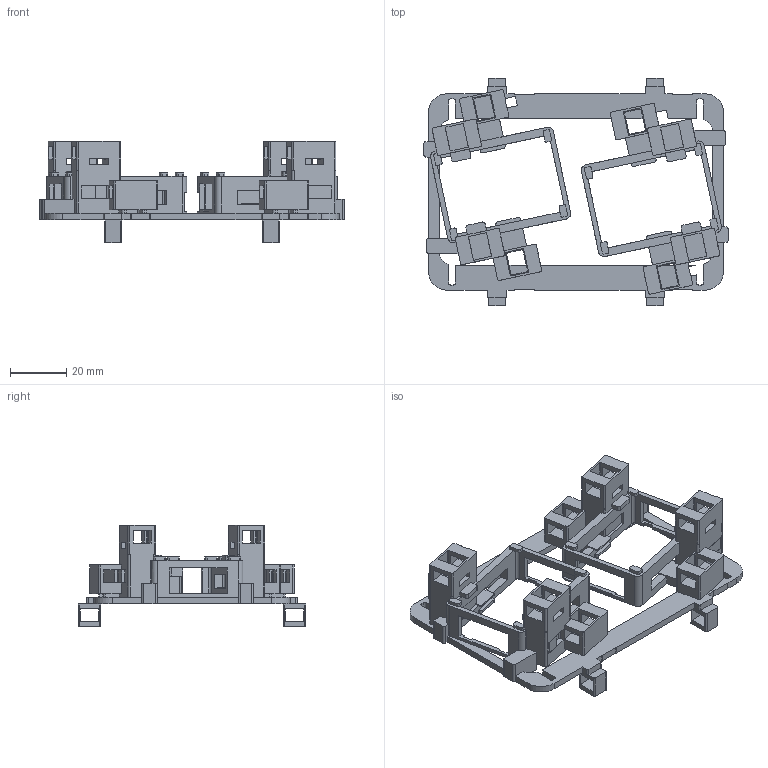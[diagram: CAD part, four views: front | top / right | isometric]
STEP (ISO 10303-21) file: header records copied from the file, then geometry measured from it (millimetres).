
FILE_DESCRIPTION(('Open CASCADE Model'),'2;1');
FILE_NAME('Open CASCADE Shape Model','2026-10-23T20:24:56',('Author'),( 'Open CASCADE'),'Open CASCADE STEP processor 7.8','Open CASCADE 7.8' ,'Unknown');
FILE_SCHEMA(('AUTOMOTIVE_DESIGN { 1 0 10303 214 1 1 1 1 }'));
Products named in the file (1): Open CASCADE STEP translator 7.8 1
Bounding box: 107.84 x 80.8 x 35.85 mm (x, y, z)
Volume: 28617.2 mm3; surface area: 26146.9 mm2
Topology: 1 solids, 1 shells, 935 faces, 2899 edges, 1918 vertices
Faces by surface type: plane 617, cylinder 318
Entity records: 70555 total; most frequent: CARTESIAN_POINT 12667, DIRECTION 10990, LINE 7307, VECTOR 7307, ORIENTED_EDGE 5798, PCURVE 5798, DEFINITIONAL_REPRESENTATION 5798, EDGE_CURVE 2899
